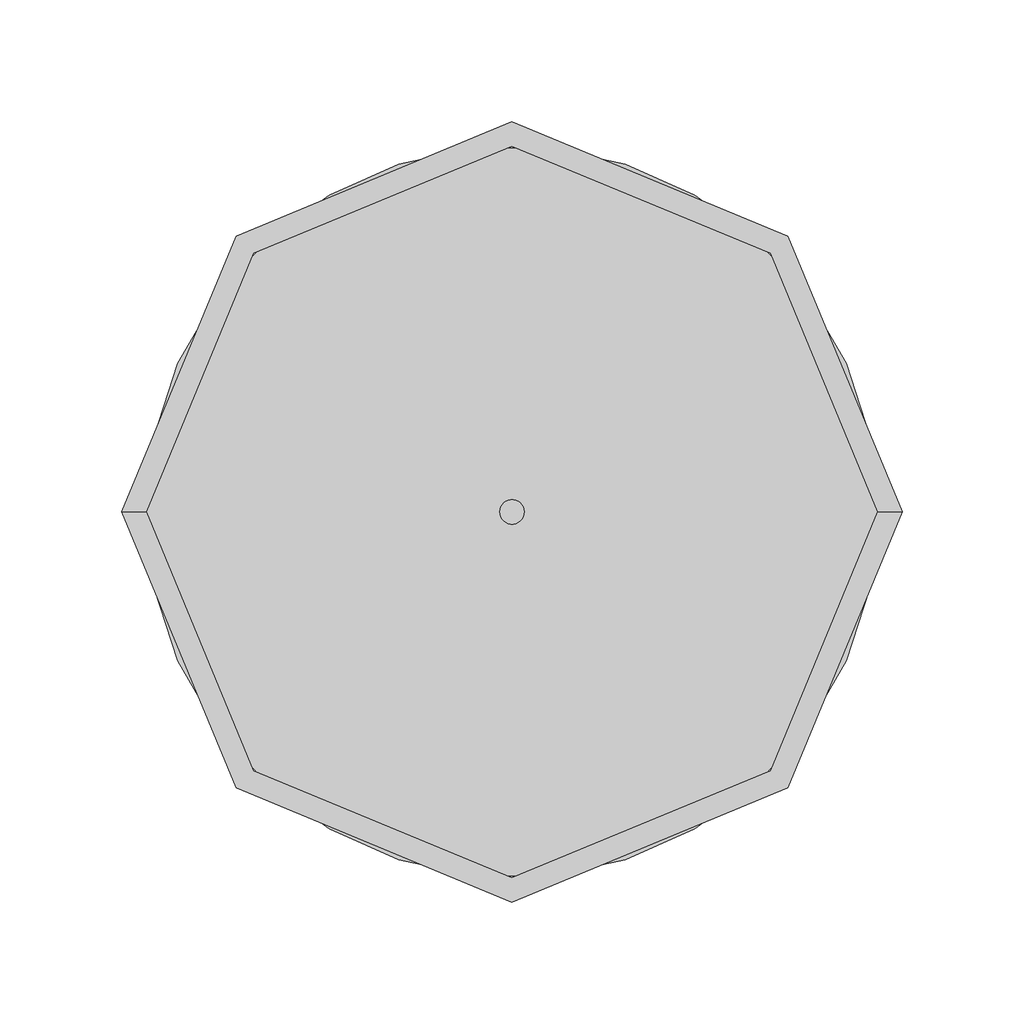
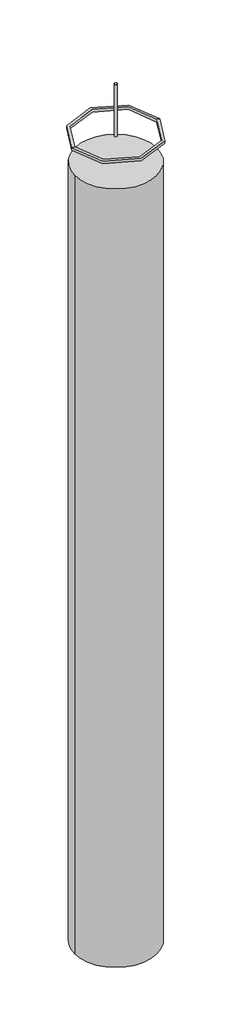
# One storey: 2 proxies.
"""IFC4 building model written with IfcOpenShell, lengths in millimetres."""

from ifc_helpers import new_model, si_unit, frame, origin, place, context, project, spatial, polyline, circle_curve, transform, mapped, element, save
from ifc_brep_helpers import plane_surface, cylinder_surface, revolved_surface, advanced_brep
from components import generic_models_222d0203

model = new_model("IFC4")

# Units and contexts
model_context = context("Model", 3, world=origin())
ifc_project = project(units=[si_unit("LENGTHUNIT", "METRE", prefix="MILLI")], contexts=[model_context])

# Site, building, storey
site = spatial("IfcSite", under=ifc_project)
building = spatial("IfcBuilding", under=site)
storey = spatial("IfcBuildingStorey", under=building, Name="- 2 - Sotto platea", Elevation=-3000.0)

# Proxies
placement = place(None, origin())
element("IfcBuildingElementProxy", 1, Name="AKTI-VO 201 VOLTECO", ObjectType="AKTI-VO 201 VOLTECO", at=placement, inside=storey, context=model_context, shape_type="AdvancedBrep", body=[
    advanced_brep(
    [(907.6847794, -14630.9443695, -2990.0), (907.6847794, -14630.9443695, -3000.0), (587.6847794, -14630.9443695, -3000.0), (587.6847794, -14630.9443695, -2990.0), (897.6847794, -14630.9443695, -2990.0), (597.6847794, -14630.9443695, -2990.0), (897.6847794, -14630.9443695, -3000.0), (597.6847794, -14630.9443695, -3000.0)],
    [
        (0, 1),
        (1, 2, circle_curve(frame((747.6847794, -14630.9443695, -3000.0), z_axis=(0.0, 0.0, 1.0), x_axis=(1.0, 0.0, 0.0)), 160.0)),
        (2, 3),
        (3, 0, circle_curve(frame((747.6847794, -14630.9443695, -2990.0), z_axis=(0.0, 0.0, -1.0), x_axis=(1.0, 0.0, 0.0)), 160.0)),
        (4, 0),
        (3, 5),
        (5, 4, circle_curve(frame((747.6847794, -14630.9443695, -2990.0), z_axis=(0.0, 0.0, -1.0), x_axis=(1.0, 0.0, 0.0)), 150.0)),
        (6, 4),
        (5, 7),
        (7, 6, circle_curve(frame((747.6847794, -14630.9443695, -3000.0), z_axis=(0.0, 0.0, -1.0), x_axis=(1.0, 0.0, 0.0)), 150.0)),
        (1, 6),
        (7, 2),
        (0, 3, circle_curve(frame((747.6847794, -14630.9443695, -2990.0), z_axis=(0.0, 0.0, -1.0), x_axis=(-1.0, 0.0, 0.0)), 160.0)),
        (2, 1, circle_curve(frame((747.6847794, -14630.9443695, -3000.0), z_axis=(0.0, 0.0, 1.0), x_axis=(-1.0, 0.0, 0.0)), 160.0)),
        (4, 5, circle_curve(frame((747.6847794, -14630.9443695, -2990.0), z_axis=(0.0, 0.0, -1.0), x_axis=(-1.0, 0.0, 0.0)), 150.0)),
        (6, 7, circle_curve(frame((747.6847794, -14630.9443695, -3000.0), z_axis=(0.0, 0.0, -1.0), x_axis=(-1.0, 0.0, 0.0)), 150.0)),
    ],
    [
        cylinder_surface(frame((747.6847794, -14630.9443695, -3000.0), z_axis=(0.0, 0.0, 1.0), x_axis=(1.0, 0.0, 0.0)), 160.0),
        plane_surface(frame((747.6847794, -14630.9443695, -2990.0), z_axis=(0.0, 0.0, 1.0), x_axis=(1.0, 0.0, 0.0))),
        revolved_surface(polyline([(897.6847794, -14630.9443695, -2990.0), (897.6847794, -14630.9443695, -3000.0)]), (747.6847794, -14630.9443695, -3000.0), (0.0, 0.0, 1.0)),
        plane_surface(frame((747.6847794, -14630.9443695, -3000.0), z_axis=(0.0, 0.0, -1.0), x_axis=(1.0, 0.0, 0.0))),
        cylinder_surface(frame((747.6847794, -14630.9443695, -3000.0), z_axis=(0.0, 0.0, 1.0), x_axis=(-1.0, 0.0, 0.0)), 160.0),
        plane_surface(frame((747.6847794, -14630.9443695, -2990.0), z_axis=(0.0, 0.0, 1.0), x_axis=(-1.0, 0.0, 0.0))),
        revolved_surface(polyline([(597.6847794, -14630.9443695, -2990.0), (597.6847794, -14630.9443695, -3000.0)]), (747.6847794, -14630.9443695, -3000.0), (0.0, 0.0, 1.0)),
        plane_surface(frame((747.6847794, -14630.9443695, -3000.0), z_axis=(0.0, 0.0, -1.0), x_axis=(-1.0, 0.0, 0.0))),
    ],
    [
        (0, [[1, 2, 3, 4]]),
        (1, [[5, -4, 6, 7]]),
        (2, [[8, -7, 9, 10]]),
        (3, [[11, -10, 12, -2]]),
        (4, [[-1, 13, -3, 14]]),
        (5, [[-5, 15, -6, -13]]),
        (6, [[-8, 16, -9, -15]]),
        (7, [[-11, -14, -12, -16]]),
    ],
),
])
generic_models_shape = generic_models_222d0203(model_context)
element("IfcBuildingElementProxy", 2, Name="ITA-Palo di fondazione con Amphibia non passante : ITA-Palo di fondazione con Amphibia non passante", ObjectType="ITA-Palo di fondazione con Amphibia non passante : ITA-Palo di fondazione con Amphibia non passante", at=placement, inside=storey, context=model_context, shape_type="MappedRepresentation", body=[
    mapped(generic_models_shape, transform((747.6847794, -14630.9443695, -3000.0), x_axis=(-1.0, 0.0, 0.0), y_axis=(0.0, -1.0, 0.0), z_axis=(0.0, 0.0, 1.0))),
])

save(model, "model.ifc")
